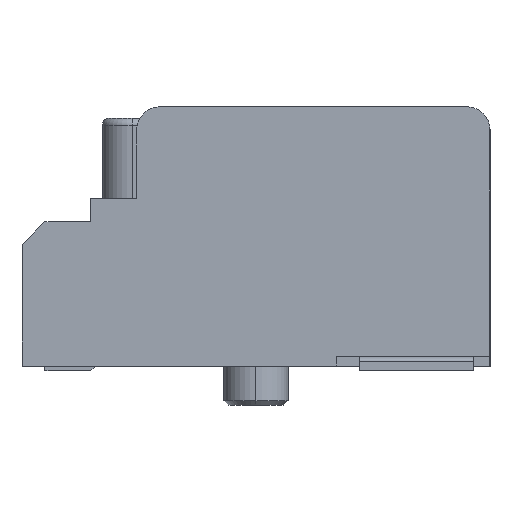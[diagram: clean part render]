
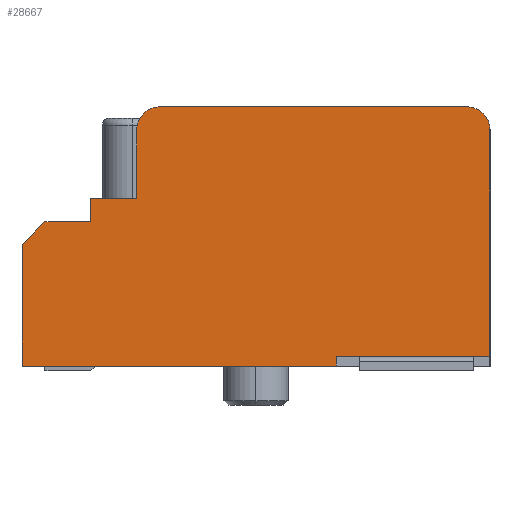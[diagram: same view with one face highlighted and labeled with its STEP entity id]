
A CAD part, left-side view. The second image highlights one B-rep face of the part: STEP entity #28667.
In plain terms, the highlighted planar face has unit normal (-1, 0, 0).
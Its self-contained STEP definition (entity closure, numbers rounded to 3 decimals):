
#93 = CARTESIAN_POINT ( 'NONE',  ( -15., 2.1, 5.75 ) ) ;
#739 = DIRECTION ( 'NONE',  ( 0., 0., 1. ) ) ;
#793 = CARTESIAN_POINT ( 'NONE',  ( -15., 3.6, 3.25 ) ) ;
#1207 = CARTESIAN_POINT ( 'NONE',  ( -15., 4.6, 3.25 ) ) ;
#1378 = VECTOR ( 'NONE', #8406, 1000. ) ;
#1981 = DIRECTION ( 'NONE',  ( 0., 1., 0. ) ) ;
#2761 = VERTEX_POINT ( 'NONE', #55784 ) ;
#3212 = VERTEX_POINT ( 'NONE', #3499 ) ;
#3381 = FACE_OUTER_BOUND ( 'NONE', #58344, .T. ) ;
#3499 = CARTESIAN_POINT ( 'NONE',  ( -15., -5.1, 5.25 ) ) ;
#3535 = VERTEX_POINT ( 'NONE', #31118 ) ;
#4175 = LINE ( 'NONE', #32231, #33393 ) ;
#5006 = EDGE_CURVE ( 'NONE', #34970, #54779, #15429, .T. ) ;
#5482 = VERTEX_POINT ( 'NONE', #42263 ) ;
#5742 = ORIENTED_EDGE ( 'NONE', *, *, #39878, .T. ) ;
#6503 = ORIENTED_EDGE ( 'NONE', *, *, #51699, .F. ) ;
#8057 = LINE ( 'NONE', #66706, #24343 ) ;
#8246 = VECTOR ( 'NONE', #37896, 1000. ) ;
#8406 = DIRECTION ( 'NONE',  ( 0., 0., -1. ) ) ;
#8697 = AXIS2_PLACEMENT_3D ( 'NONE', #14758, #36711, #37086 ) ;
#8931 = EDGE_CURVE ( 'NONE', #19186, #33959, #66534, .T. ) ;
#9224 = VECTOR ( 'NONE', #60689, 1000. ) ;
#10667 = LINE ( 'NONE', #22575, #9224 ) ;
#12864 = DIRECTION ( 'NONE',  ( -1., 0., 0. ) ) ;
#13098 = DIRECTION ( 'NONE',  ( 0., -1., 0. ) ) ;
#13140 = EDGE_CURVE ( 'NONE', #54779, #20400, #4175, .T. ) ;
#13430 = EDGE_CURVE ( 'NONE', #3212, #55607, #31451, .T. ) ;
#14758 = CARTESIAN_POINT ( 'NONE',  ( -15., 2.1, 5.25 ) ) ;
#15346 = ORIENTED_EDGE ( 'NONE', *, *, #32860, .T. ) ;
#15429 = LINE ( 'NONE', #59319, #30767 ) ;
#15599 = CIRCLE ( 'NONE', #8697, 0.5 ) ;
#17944 = EDGE_CURVE ( 'NONE', #42512, #36148, #8057, .T. ) ;
#18081 = EDGE_CURVE ( 'NONE', #33959, #5482, #60534, .T. ) ;
#18765 = ORIENTED_EDGE ( 'NONE', *, *, #42208, .F. ) ;
#19186 = VERTEX_POINT ( 'NONE', #58996 ) ;
#20400 = VERTEX_POINT ( 'NONE', #26580 ) ;
#22575 = CARTESIAN_POINT ( 'NONE',  ( -15., 3.6, 3.25 ) ) ;
#22757 = ORIENTED_EDGE ( 'NONE', *, *, #17944, .F. ) ;
#24033 = CARTESIAN_POINT ( 'NONE',  ( -15., -4.6, 5.25 ) ) ;
#24343 = VECTOR ( 'NONE', #13098, 1000. ) ;
#24848 = VECTOR ( 'NONE', #1981, 1000. ) ;
#25094 = ORIENTED_EDGE ( 'NONE', *, *, #58810, .T. ) ;
#25583 = CARTESIAN_POINT ( 'NONE',  ( -15., 4.6, 3.25 ) ) ;
#26417 = CARTESIAN_POINT ( 'NONE',  ( -15., -5.1, 5.75 ) ) ;
#26580 = CARTESIAN_POINT ( 'NONE',  ( -15., 2.6, 3.75 ) ) ;
#27450 = CARTESIAN_POINT ( 'NONE',  ( -15., 3.6, 3.75 ) ) ;
#27458 = CARTESIAN_POINT ( 'NONE',  ( -15., 5.1, 5.75 ) ) ;
#27657 = VECTOR ( 'NONE', #41885, 1000. ) ;
#28194 = LINE ( 'NONE', #1207, #35522 ) ;
#28667 = ADVANCED_FACE ( 'NONE', ( #3381 ), #69836, .F. ) ;
#30401 = LINE ( 'NONE', #47261, #27657 ) ;
#30767 = VECTOR ( 'NONE', #32711, 1000. ) ;
#31118 = CARTESIAN_POINT ( 'NONE',  ( -15., -1.75, 0.31 ) ) ;
#31451 = LINE ( 'NONE', #26417, #1378 ) ;
#32231 = CARTESIAN_POINT ( 'NONE',  ( -15., 0., 3.75 ) ) ;
#32711 = DIRECTION ( 'NONE',  ( 0., 0., 1. ) ) ;
#32764 = CARTESIAN_POINT ( 'NONE',  ( -15., 5.1, 5.75 ) ) ;
#32860 = EDGE_CURVE ( 'NONE', #64719, #19186, #28194, .T. ) ;
#33125 = DIRECTION ( 'NONE',  ( 0., 0., -1. ) ) ;
#33393 = VECTOR ( 'NONE', #59191, 1000. ) ;
#33959 = VERTEX_POINT ( 'NONE', #69723 ) ;
#34681 = ORIENTED_EDGE ( 'NONE', *, *, #13430, .F. ) ;
#34704 = CARTESIAN_POINT ( 'NONE',  ( -15., -5.1, 0.31 ) ) ;
#34970 = VERTEX_POINT ( 'NONE', #793 ) ;
#35080 = ORIENTED_EDGE ( 'NONE', *, *, #69149, .F. ) ;
#35522 = VECTOR ( 'NONE', #61609, 1000. ) ;
#35536 = VECTOR ( 'NONE', #739, 1000. ) ;
#36148 = VERTEX_POINT ( 'NONE', #44577 ) ;
#36711 = DIRECTION ( 'NONE',  ( -1., 0., 0. ) ) ;
#37086 = DIRECTION ( 'NONE',  ( 0., 1., 0. ) ) ;
#37380 = AXIS2_PLACEMENT_3D ( 'NONE', #27458, #61221, #60867 ) ;
#37896 = DIRECTION ( 'NONE',  ( 0., -1., 0. ) ) ;
#39861 = DIRECTION ( 'NONE',  ( 0., 1., 0. ) ) ;
#39878 = EDGE_CURVE ( 'NONE', #3212, #36148, #57949, .T. ) ;
#41885 = DIRECTION ( 'NONE',  ( 0., 0., -1. ) ) ;
#42208 = EDGE_CURVE ( 'NONE', #55607, #3535, #62359, .T. ) ;
#42263 = CARTESIAN_POINT ( 'NONE',  ( -15., -1.75, 0.1 ) ) ;
#42312 = ORIENTED_EDGE ( 'NONE', *, *, #13140, .F. ) ;
#42512 = VERTEX_POINT ( 'NONE', #93 ) ;
#44577 = CARTESIAN_POINT ( 'NONE',  ( -15., -4.6, 5.75 ) ) ;
#47261 = CARTESIAN_POINT ( 'NONE',  ( -15., -1.75, 0.31 ) ) ;
#50950 = ORIENTED_EDGE ( 'NONE', *, *, #5006, .F. ) ;
#51208 = CARTESIAN_POINT ( 'NONE',  ( -15., -1.75, 0.31 ) ) ;
#51699 = EDGE_CURVE ( 'NONE', #64719, #34970, #10667, .T. ) ;
#53145 = ORIENTED_EDGE ( 'NONE', *, *, #8931, .T. ) ;
#53179 = ORIENTED_EDGE ( 'NONE', *, *, #18081, .T. ) ;
#54779 = VERTEX_POINT ( 'NONE', #27450 ) ;
#55046 = LINE ( 'NONE', #60461, #35536 ) ;
#55607 = VERTEX_POINT ( 'NONE', #34704 ) ;
#55784 = CARTESIAN_POINT ( 'NONE',  ( -15., 2.6, 5.25 ) ) ;
#56073 = ORIENTED_EDGE ( 'NONE', *, *, #71142, .F. ) ;
#57949 = CIRCLE ( 'NONE', #60278, 0.5 ) ;
#58344 = EDGE_LOOP ( 'NONE', ( #53179, #35080, #18765, #34681, #5742, #22757, #25094, #56073, #42312, #50950, #6503, #15346, #53145 ) ) ;
#58810 = EDGE_CURVE ( 'NONE', #42512, #2761, #15599, .T. ) ;
#58996 = CARTESIAN_POINT ( 'NONE',  ( -15., 5.1, 2.75 ) ) ;
#59191 = DIRECTION ( 'NONE',  ( 0., -1., 0. ) ) ;
#59319 = CARTESIAN_POINT ( 'NONE',  ( -15., 3.6, 3.25 ) ) ;
#60278 = AXIS2_PLACEMENT_3D ( 'NONE', #24033, #12864, #39861 ) ;
#60461 = CARTESIAN_POINT ( 'NONE',  ( -15., 2.6, 3.75 ) ) ;
#60534 = LINE ( 'NONE', #65570, #8246 ) ;
#60689 = DIRECTION ( 'NONE',  ( 0., -1., 0. ) ) ;
#60867 = DIRECTION ( 'NONE',  ( 0., 1., 0. ) ) ;
#61221 = DIRECTION ( 'NONE',  ( 1., 0., 0. ) ) ;
#61609 = DIRECTION ( 'NONE',  ( 0., 0.707, -0.707 ) ) ;
#62359 = LINE ( 'NONE', #51208, #24848 ) ;
#64719 = VERTEX_POINT ( 'NONE', #25583 ) ;
#65570 = CARTESIAN_POINT ( 'NONE',  ( -15., 5.1, 0.1 ) ) ;
#66534 = LINE ( 'NONE', #32764, #67378 ) ;
#66706 = CARTESIAN_POINT ( 'NONE',  ( -15., 5.1, 5.75 ) ) ;
#67378 = VECTOR ( 'NONE', #33125, 1000. ) ;
#69149 = EDGE_CURVE ( 'NONE', #3535, #5482, #30401, .T. ) ;
#69723 = CARTESIAN_POINT ( 'NONE',  ( -15., 5.1, 0.1 ) ) ;
#69836 = PLANE ( 'NONE',  #37380 ) ;
#71142 = EDGE_CURVE ( 'NONE', #20400, #2761, #55046, .T. ) ;
